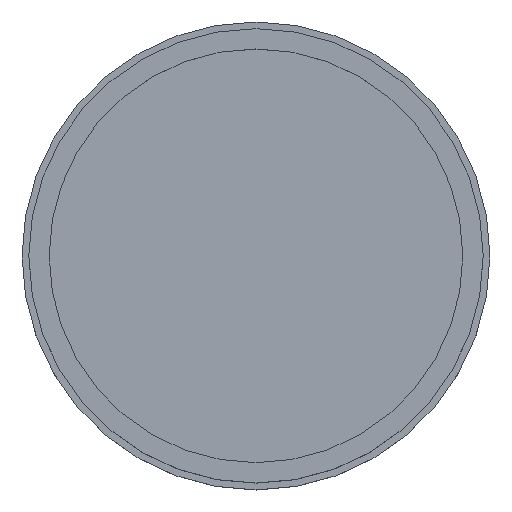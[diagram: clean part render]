
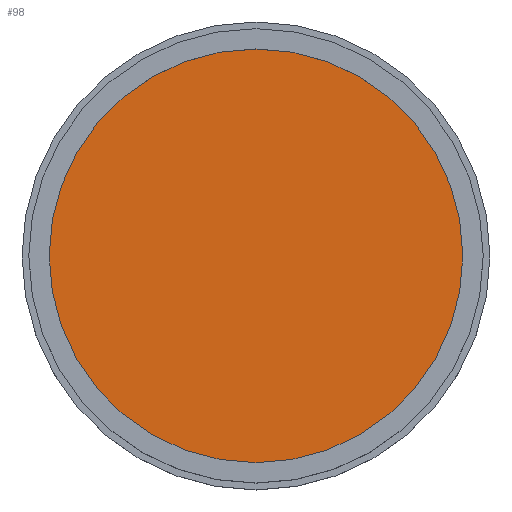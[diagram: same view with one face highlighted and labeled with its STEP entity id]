
A CAD part, top view. The second image highlights one B-rep face of the part: STEP entity #98.
In plain terms, the highlighted planar face has unit normal (0, 0, 1).
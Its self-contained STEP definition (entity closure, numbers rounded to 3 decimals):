
#98 = ADVANCED_FACE( '', ( #152 ), #153, .T. );
#152 = FACE_OUTER_BOUND( '', #206, .T. );
#153 = PLANE( '', #207 );
#206 = EDGE_LOOP( '', ( #367, #368 ) );
#207 = AXIS2_PLACEMENT_3D( '', #369, #370, #371 );
#367 = ORIENTED_EDGE( '', *, *, #417, .T. );
#368 = ORIENTED_EDGE( '', *, *, #373, .T. );
#369 = CARTESIAN_POINT( '', ( 0., 7.625, 16.7 ) );
#370 = DIRECTION( '', ( 0., 0., 1. ) );
#371 = DIRECTION( '', ( 0., 1., 0. ) );
#373 = EDGE_CURVE( '', #421, #418, #422, .T. );
#417 = EDGE_CURVE( '', #418, #421, #493, .T. );
#418 = VERTEX_POINT( '', #494 );
#421 = VERTEX_POINT( '', #498 );
#422 = CIRCLE( '', #499, 15.25 );
#493 = CIRCLE( '', #585, 15.25 );
#494 = CARTESIAN_POINT( '', ( 0., 15.25, 16.7 ) );
#498 = CARTESIAN_POINT( '', ( 0., -15.25, 16.7 ) );
#499 = AXIS2_PLACEMENT_3D( '', #587, #588, #589 );
#585 = AXIS2_PLACEMENT_3D( '', #689, #690, #691 );
#587 = CARTESIAN_POINT( '', ( 0., 0., 16.7 ) );
#588 = DIRECTION( '', ( 0., 0., 1. ) );
#589 = DIRECTION( '', ( 0., 1., 0. ) );
#689 = CARTESIAN_POINT( '', ( 0., 0., 16.7 ) );
#690 = DIRECTION( '', ( 0., 0., 1. ) );
#691 = DIRECTION( '', ( 0., 1., 0. ) );
